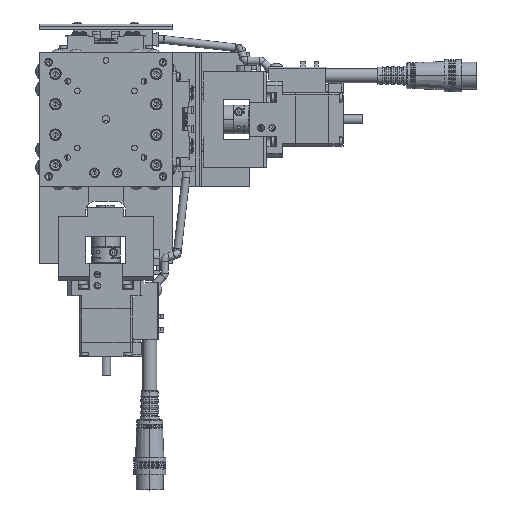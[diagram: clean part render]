
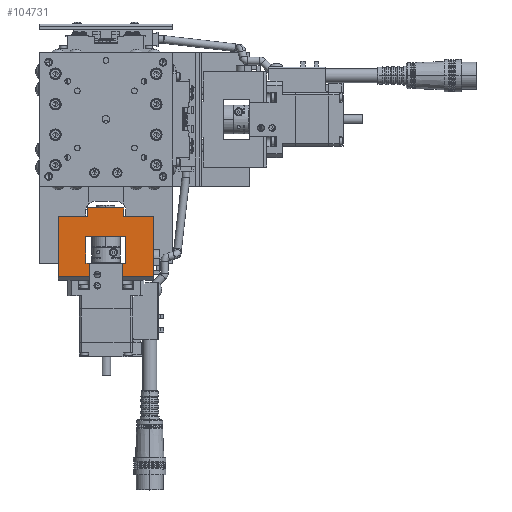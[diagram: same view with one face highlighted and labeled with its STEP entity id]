
A CAD part, top view. The second image highlights one B-rep face of the part: STEP entity #104731.
In plain terms, the highlighted planar face has unit normal (0, 0, 1).
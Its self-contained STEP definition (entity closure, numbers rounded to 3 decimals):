
#680 = EDGE_CURVE ( 'NONE', #122219, #68864, #37265, .T. ) ;
#2300 = ORIENTED_EDGE ( 'NONE', *, *, #113201, .F. ) ;
#2795 = CARTESIAN_POINT ( 'NONE',  ( -46.5, 9.5, 19.5 ) ) ;
#4230 = VERTEX_POINT ( 'NONE', #74536 ) ;
#5833 = LINE ( 'NONE', #77697, #102143 ) ;
#6086 = LINE ( 'NONE', #64621, #40764 ) ;
#6659 = LINE ( 'NONE', #120450, #83951 ) ;
#7797 = VERTEX_POINT ( 'NONE', #130477 ) ;
#8560 = ORIENTED_EDGE ( 'NONE', *, *, #83449, .F. ) ;
#11056 = CARTESIAN_POINT ( 'NONE',  ( -75.5, -25., 19.5 ) ) ;
#12046 = EDGE_CURVE ( 'NONE', #66194, #7797, #6086, .T. ) ;
#13508 = DIRECTION ( 'NONE',  ( 1., 0., 0. ) ) ;
#13543 = ORIENTED_EDGE ( 'NONE', *, *, #85199, .F. ) ;
#14380 = DIRECTION ( 'NONE',  ( 1., 0., 0. ) ) ;
#14722 = DIRECTION ( 'NONE',  ( 1., 0., 0. ) ) ;
#15299 = ORIENTED_EDGE ( 'NONE', *, *, #109088, .T. ) ;
#15351 = CARTESIAN_POINT ( 'NONE',  ( -51., -25., 19.5 ) ) ;
#15557 = LINE ( 'NONE', #70580, #32777 ) ;
#16335 = ORIENTED_EDGE ( 'NONE', *, *, #53875, .T. ) ;
#16695 = LINE ( 'NONE', #39052, #72068 ) ;
#17256 = DIRECTION ( 'NONE',  ( 0., 1., 0. ) ) ;
#17830 = ORIENTED_EDGE ( 'NONE', *, *, #680, .F. ) ;
#19813 = LINE ( 'NONE', #104371, #84625 ) ;
#21151 = DIRECTION ( 'NONE',  ( 0., 1., 0. ) ) ;
#21836 = EDGE_CURVE ( 'NONE', #67691, #92330, #91534, .T. ) ;
#23049 = CARTESIAN_POINT ( 'NONE',  ( -75.5, -10.5, 19.5 ) ) ;
#23765 = LINE ( 'NONE', #106949, #56953 ) ;
#25308 = CARTESIAN_POINT ( 'NONE',  ( -75.5, -8.7, 19.5 ) ) ;
#27314 = VECTOR ( 'NONE', #104013, 1000. ) ;
#27394 = ORIENTED_EDGE ( 'NONE', *, *, #51403, .T. ) ;
#28260 = ORIENTED_EDGE ( 'NONE', *, *, #78656, .T. ) ;
#30840 = ORIENTED_EDGE ( 'NONE', *, *, #116941, .T. ) ;
#32055 = LINE ( 'NONE', #39475, #122079 ) ;
#32724 = VERTEX_POINT ( 'NONE', #15351 ) ;
#32777 = VECTOR ( 'NONE', #80689, 1000. ) ;
#33178 = EDGE_CURVE ( 'NONE', #32724, #68864, #5833, .T. ) ;
#33432 = CARTESIAN_POINT ( 'NONE',  ( -75.5, 8.7, 19.5 ) ) ;
#33999 = DIRECTION ( 'NONE',  ( 1., 0., 0. ) ) ;
#35601 = VERTEX_POINT ( 'NONE', #44699 ) ;
#35765 = CARTESIAN_POINT ( 'NONE',  ( -61.5, 10.5, 19.5 ) ) ;
#36154 = LINE ( 'NONE', #11056, #56662 ) ;
#36292 = CARTESIAN_POINT ( 'NONE',  ( -82.5, -25., 19.5 ) ) ;
#37265 = LINE ( 'NONE', #58536, #84593 ) ;
#38862 = EDGE_CURVE ( 'NONE', #66194, #88002, #16695, .T. ) ;
#39052 = CARTESIAN_POINT ( 'NONE',  ( -82.5, 8.7, 19.5 ) ) ;
#39386 = CARTESIAN_POINT ( 'NONE',  ( -46.5, -9.5, 19.5 ) ) ;
#39475 = CARTESIAN_POINT ( 'NONE',  ( -46.5, 0., 19.5 ) ) ;
#40764 = VECTOR ( 'NONE', #14722, 1000. ) ;
#41272 = EDGE_LOOP ( 'NONE', ( #58723, #116984, #2300, #30840, #27394, #15299, #13543, #111997, #8560, #107221, #16335, #52882, #17830, #90998, #97535, #28260 ) ) ;
#42177 = DIRECTION ( 'NONE',  ( 1., 0., 0. ) ) ;
#43916 = VECTOR ( 'NONE', #103261, 1000. ) ;
#44699 = CARTESIAN_POINT ( 'NONE',  ( -75.5, -10.5, 19.5 ) ) ;
#47423 = VECTOR ( 'NONE', #42177, 1000. ) ;
#48603 = LINE ( 'NONE', #90498, #43916 ) ;
#50021 = VERTEX_POINT ( 'NONE', #63683 ) ;
#51403 = EDGE_CURVE ( 'NONE', #112084, #68406, #15557, .T. ) ;
#52882 = ORIENTED_EDGE ( 'NONE', *, *, #33178, .T. ) ;
#53875 = EDGE_CURVE ( 'NONE', #92330, #32724, #115991, .T. ) ;
#54178 = LINE ( 'NONE', #33432, #27314 ) ;
#54537 = PLANE ( 'NONE',  #107103 ) ;
#55487 = CARTESIAN_POINT ( 'NONE',  ( -51., -9.5, 19.5 ) ) ;
#56662 = VECTOR ( 'NONE', #72798, 1000. ) ;
#56953 = VECTOR ( 'NONE', #76102, 1000. ) ;
#58536 = CARTESIAN_POINT ( 'NONE',  ( -48.75, -9.5, 19.5 ) ) ;
#58723 = ORIENTED_EDGE ( 'NONE', *, *, #12046, .F. ) ;
#61600 = VECTOR ( 'NONE', #80864, 1000. ) ;
#63683 = CARTESIAN_POINT ( 'NONE',  ( -75.5, 8.7, 19.5 ) ) ;
#63766 = FACE_OUTER_BOUND ( 'NONE', #41272, .T. ) ;
#64621 = CARTESIAN_POINT ( 'NONE',  ( -75.5, 25., 19.5 ) ) ;
#65027 = DIRECTION ( 'NONE',  ( 1., 0., 0. ) ) ;
#66194 = VERTEX_POINT ( 'NONE', #67214 ) ;
#66427 = LINE ( 'NONE', #72165, #47423 ) ;
#67046 = CARTESIAN_POINT ( 'NONE',  ( -82.5, -8.7, 19.5 ) ) ;
#67214 = CARTESIAN_POINT ( 'NONE',  ( -82.5, 25., 19.5 ) ) ;
#67691 = VERTEX_POINT ( 'NONE', #67046 ) ;
#67758 = VERTEX_POINT ( 'NONE', #70054 ) ;
#68406 = VERTEX_POINT ( 'NONE', #35765 ) ;
#68864 = VERTEX_POINT ( 'NONE', #55487 ) ;
#70054 = CARTESIAN_POINT ( 'NONE',  ( -61.5, -10.5, 19.5 ) ) ;
#70344 = DIRECTION ( 'NONE',  ( 0., -1., 0. ) ) ;
#70580 = CARTESIAN_POINT ( 'NONE',  ( -75.5, 10.5, 19.5 ) ) ;
#72068 = VECTOR ( 'NONE', #108316, 1000. ) ;
#72165 = CARTESIAN_POINT ( 'NONE',  ( -48.75, 9.5, 19.5 ) ) ;
#72798 = DIRECTION ( 'NONE',  ( 0., 1., 0. ) ) ;
#74536 = CARTESIAN_POINT ( 'NONE',  ( -51., 9.5, 19.5 ) ) ;
#75016 = VECTOR ( 'NONE', #33999, 1000. ) ;
#76102 = DIRECTION ( 'NONE',  ( -1., 0., 0. ) ) ;
#76929 = CARTESIAN_POINT ( 'NONE',  ( -82.5, -25., 19.5 ) ) ;
#77697 = CARTESIAN_POINT ( 'NONE',  ( -51., 18.75, 19.5 ) ) ;
#78656 = EDGE_CURVE ( 'NONE', #4230, #7797, #6659, .T. ) ;
#80378 = EDGE_CURVE ( 'NONE', #4230, #113814, #66427, .T. ) ;
#80689 = DIRECTION ( 'NONE',  ( 1., 0., 0. ) ) ;
#80864 = DIRECTION ( 'NONE',  ( 0., -1., 0. ) ) ;
#83449 = EDGE_CURVE ( 'NONE', #67691, #106621, #19813, .T. ) ;
#83951 = VECTOR ( 'NONE', #21151, 1000. ) ;
#84593 = VECTOR ( 'NONE', #129073, 1000. ) ;
#84625 = VECTOR ( 'NONE', #13508, 1000. ) ;
#84933 = EDGE_CURVE ( 'NONE', #113814, #122219, #32055, .T. ) ;
#85199 = EDGE_CURVE ( 'NONE', #35601, #67758, #106243, .T. ) ;
#88002 = VERTEX_POINT ( 'NONE', #123742 ) ;
#90498 = CARTESIAN_POINT ( 'NONE',  ( -61.5, 18.75, 19.5 ) ) ;
#90998 = ORIENTED_EDGE ( 'NONE', *, *, #84933, .F. ) ;
#91534 = LINE ( 'NONE', #76929, #61600 ) ;
#92330 = VERTEX_POINT ( 'NONE', #36292 ) ;
#97535 = ORIENTED_EDGE ( 'NONE', *, *, #80378, .F. ) ;
#102143 = VECTOR ( 'NONE', #17256, 1000. ) ;
#103261 = DIRECTION ( 'NONE',  ( 0., -1., 0. ) ) ;
#104013 = DIRECTION ( 'NONE',  ( 0., 1., 0. ) ) ;
#104371 = CARTESIAN_POINT ( 'NONE',  ( -80., -8.7, 19.5 ) ) ;
#104731 = ADVANCED_FACE ( 'NONE', ( #63766 ), #54537, .T. ) ;
#106243 = LINE ( 'NONE', #23049, #120435 ) ;
#106621 = VERTEX_POINT ( 'NONE', #25308 ) ;
#106949 = CARTESIAN_POINT ( 'NONE',  ( -80., 8.7, 19.5 ) ) ;
#107103 = AXIS2_PLACEMENT_3D ( 'NONE', #114084, #124649, #14380 ) ;
#107221 = ORIENTED_EDGE ( 'NONE', *, *, #21836, .T. ) ;
#108316 = DIRECTION ( 'NONE',  ( 0., -1., 0. ) ) ;
#109088 = EDGE_CURVE ( 'NONE', #68406, #67758, #48603, .T. ) ;
#111997 = ORIENTED_EDGE ( 'NONE', *, *, #114286, .T. ) ;
#112084 = VERTEX_POINT ( 'NONE', #122468 ) ;
#113201 = EDGE_CURVE ( 'NONE', #50021, #88002, #23765, .T. ) ;
#113814 = VERTEX_POINT ( 'NONE', #2795 ) ;
#114084 = CARTESIAN_POINT ( 'NONE',  ( -75.5, 25., 19.5 ) ) ;
#114286 = EDGE_CURVE ( 'NONE', #35601, #106621, #36154, .T. ) ;
#115991 = LINE ( 'NONE', #124431, #75016 ) ;
#116941 = EDGE_CURVE ( 'NONE', #50021, #112084, #54178, .T. ) ;
#116984 = ORIENTED_EDGE ( 'NONE', *, *, #38862, .T. ) ;
#120435 = VECTOR ( 'NONE', #65027, 1000. ) ;
#120450 = CARTESIAN_POINT ( 'NONE',  ( -51., 18.75, 19.5 ) ) ;
#122079 = VECTOR ( 'NONE', #70344, 1000. ) ;
#122219 = VERTEX_POINT ( 'NONE', #39386 ) ;
#122468 = CARTESIAN_POINT ( 'NONE',  ( -75.5, 10.5, 19.5 ) ) ;
#123742 = CARTESIAN_POINT ( 'NONE',  ( -82.5, 8.7, 19.5 ) ) ;
#124431 = CARTESIAN_POINT ( 'NONE',  ( -75.5, -25., 19.5 ) ) ;
#124649 = DIRECTION ( 'NONE',  ( 0., 0., 1. ) ) ;
#129073 = DIRECTION ( 'NONE',  ( -1., 0., 0. ) ) ;
#130477 = CARTESIAN_POINT ( 'NONE',  ( -51., 25., 19.5 ) ) ;
